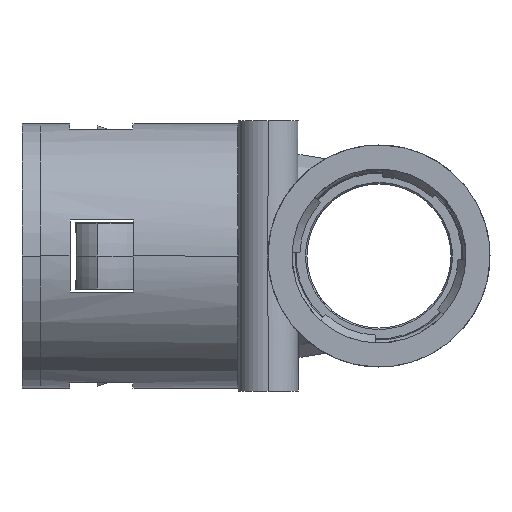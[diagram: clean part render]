
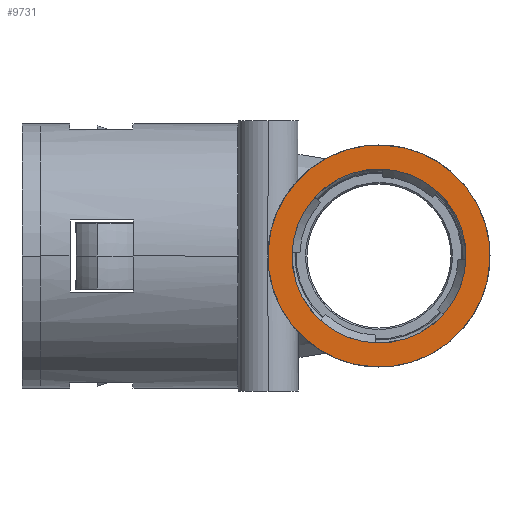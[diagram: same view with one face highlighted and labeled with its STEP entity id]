
A CAD part, left-side view. The second image highlights one B-rep face of the part: STEP entity #9731.
In plain terms, the highlighted planar face has unit normal (-1, 0, 0) as drawn and (0, 0, -1) by its records, which use the part's own axes.
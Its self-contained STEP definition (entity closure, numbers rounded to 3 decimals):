
#226 = VERTEX_POINT ( 'NONE', #4471 ) ;
#228 = VERTEX_POINT ( 'NONE', #4483 ) ;
#234 = EDGE_CURVE ( 'NONE', #228, #226, #4466, .T. ) ;
#340 = VERTEX_POINT ( 'NONE', #4708 ) ;
#4466 = CIRCLE ( 'NONE', #4479, 14.5 ) ;
#4471 = CARTESIAN_POINT ( 'NONE',  ( 14.5, 0., 0. ) ) ;
#4479 = AXIS2_PLACEMENT_3D ( 'NONE', #4513, #4510, #4509 ) ;
#4483 = CARTESIAN_POINT ( 'NONE',  ( -14.5, 0., 0. ) ) ;
#4509 = DIRECTION ( 'NONE',  ( 1., 0., 0. ) ) ;
#4510 = DIRECTION ( 'NONE',  ( 0., 0., 1. ) ) ;
#4513 = CARTESIAN_POINT ( 'NONE',  ( 0., 0., 0. ) ) ;
#4708 = CARTESIAN_POINT ( 'NONE',  ( 18.5, 0., 0. ) ) ;
#9192 = ORIENTED_EDGE ( 'NONE', *, *, #9434, .T. ) ;
#9220 = EDGE_CURVE ( 'NONE', #14436, #340, #12460, .T. ) ;
#9413 = EDGE_LOOP ( 'NONE', ( #9192, #9750 ) ) ;
#9434 = EDGE_CURVE ( 'NONE', #226, #228, #12500, .T. ) ;
#9690 = ORIENTED_EDGE ( 'NONE', *, *, #9220, .F. ) ;
#9721 = EDGE_LOOP ( 'NONE', ( #9690, #9737 ) ) ;
#9731 = ADVANCED_FACE ( 'NONE', ( #12471, #12480 ), #12469, .F. ) ;
#9737 = ORIENTED_EDGE ( 'NONE', *, *, #14443, .F. ) ;
#9750 = ORIENTED_EDGE ( 'NONE', *, *, #234, .T. ) ;
#11938 = CARTESIAN_POINT ( 'NONE',  ( 0., 0., 0. ) ) ;
#12199 = DIRECTION ( 'NONE',  ( 0., 0., 1. ) ) ;
#12441 = DIRECTION ( 'NONE',  ( 1., 0., 0. ) ) ;
#12442 = DIRECTION ( 'NONE',  ( 0., 0., 1. ) ) ;
#12443 = CARTESIAN_POINT ( 'NONE',  ( 0., 0., 0. ) ) ;
#12444 = AXIS2_PLACEMENT_3D ( 'NONE', #12443, #12442, #12441 ) ;
#12445 = DIRECTION ( 'NONE',  ( 1., 0., 0. ) ) ;
#12460 = CIRCLE ( 'NONE', #12444, 18.5 ) ;
#12469 = PLANE ( 'NONE',  #12473 ) ;
#12471 = FACE_BOUND ( 'NONE', #9413, .T. ) ;
#12473 = AXIS2_PLACEMENT_3D ( 'NONE', #12524, #12523, #12522 ) ;
#12480 = FACE_OUTER_BOUND ( 'NONE', #9721, .T. ) ;
#12489 = DIRECTION ( 'NONE',  ( 1., 0., 0. ) ) ;
#12490 = DIRECTION ( 'NONE',  ( 0., 0., 1. ) ) ;
#12491 = CARTESIAN_POINT ( 'NONE',  ( 0., 0., 0. ) ) ;
#12492 = AXIS2_PLACEMENT_3D ( 'NONE', #12491, #12490, #12489 ) ;
#12500 = CIRCLE ( 'NONE', #12492, 14.5 ) ;
#12522 = DIRECTION ( 'NONE',  ( 1., 0., 0. ) ) ;
#12523 = DIRECTION ( 'NONE',  ( 0., 0., 1. ) ) ;
#12524 = CARTESIAN_POINT ( 'NONE',  ( 0., 0., 0. ) ) ;
#13414 = CARTESIAN_POINT ( 'NONE',  ( -18.5, 0., 0. ) ) ;
#13443 = CIRCLE ( 'NONE', #13448, 18.5 ) ;
#13448 = AXIS2_PLACEMENT_3D ( 'NONE', #11938, #12199, #12445 ) ;
#14436 = VERTEX_POINT ( 'NONE', #13414 ) ;
#14443 = EDGE_CURVE ( 'NONE', #340, #14436, #13443, .T. ) ;
